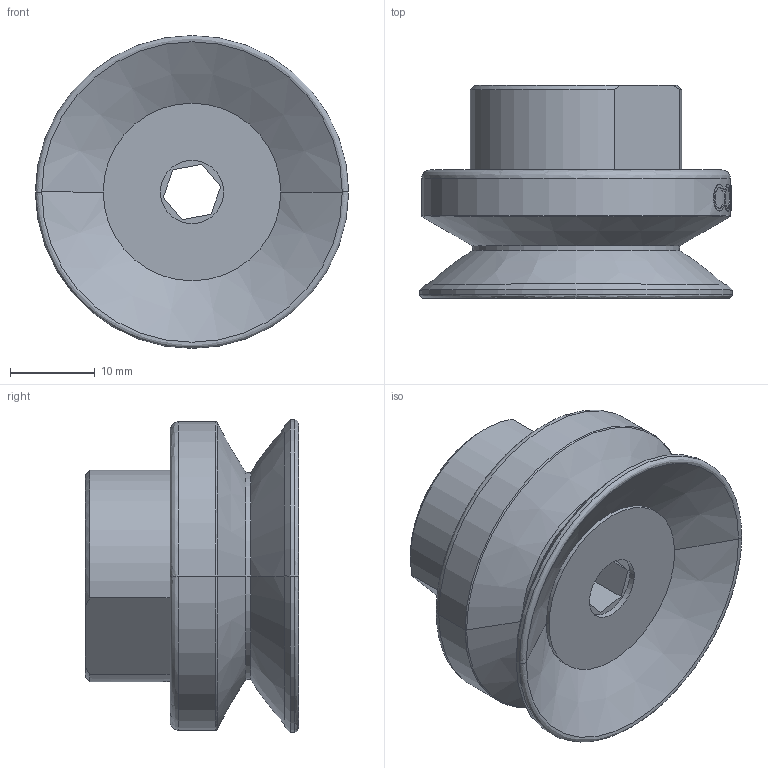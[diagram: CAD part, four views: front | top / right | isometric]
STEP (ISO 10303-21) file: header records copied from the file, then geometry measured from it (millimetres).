
FILE_DESCRIPTION (( 'STEP AP214' ), '1' );
FILE_NAME ('SAF-30-G3-8IG.STEP', '2023-03-07T05:59:54', ( 'Windows User' ), ( 'P R C' ), 'SwSTEP 2.0', 'SolidWorks 2019', '' );
FILE_SCHEMA (( 'AUTOMOTIVE_DESIGN' ));
Length unit declared in the file: millimetre
Products named in the file (1): SAF-30-G3-8IG
Bounding box: 37 x 25.2 x 37 mm (x, y, z)
Volume: 12982.2 mm3; surface area: 5820.8 mm2
Topology: 1 solids, 1 shells, 102 faces, 248 edges, 158 vertices
Faces by surface type: bspline 37, plane 28, cylinder 24, cone 13
Entity records: 13354 total; most frequent: CARTESIAN_POINT 9978, ORIENTED_EDGE 496, DIRECTION 394, EDGE_CURVE 248, VERTEX_POINT 158, AXIS2_PLACEMENT_3D 146, EDGE_LOOP 114, UNCERTAINTY_MEASURE_WITH_UNIT 105
